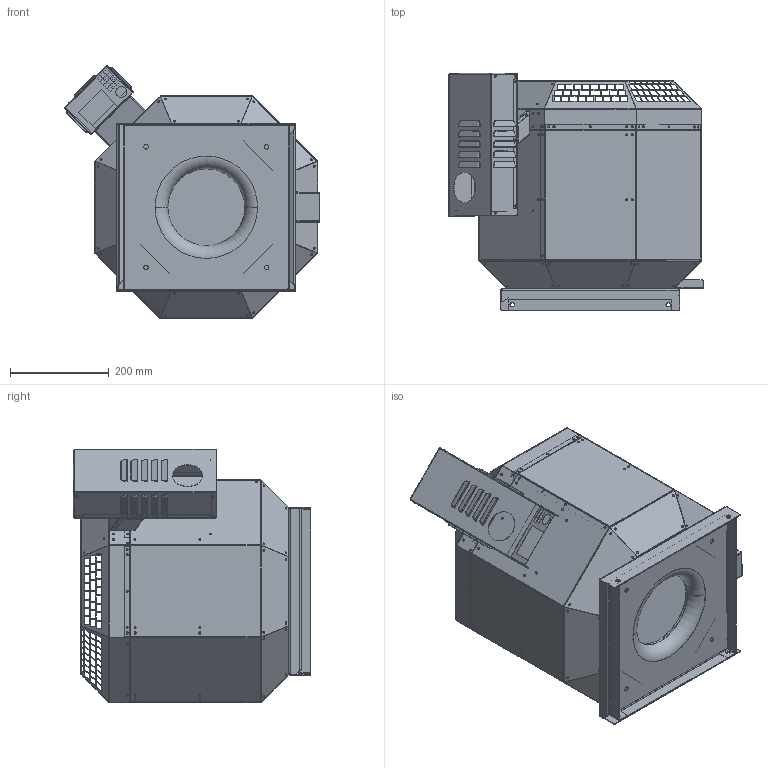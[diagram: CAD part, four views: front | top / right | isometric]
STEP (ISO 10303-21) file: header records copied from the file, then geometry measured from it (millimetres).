
FILE_DESCRIPTION (( 'STEP AP203' ), '1' );
FILE_NAME ('144839-01_DVN250EC30_step.step', '2018-07-04T10:23:51', ( '' ), ( '' ), 'SwSTEP 2.0', 'SolidWorks 2017', '' );
FILE_SCHEMA (( 'CONFIG_CONTROL_DESIGN' ));
Length unit declared in the file: millimetre
Products named in the file (1): 144839-01_DVN250EC30_step
Bounding box: 517.71 x 481.99 x 513.88 mm (x, y, z)
Surface area: 2198500.4 mm2 (no closed solid volume)
Topology: 0 solids, 31 shells, 1554 faces, 6741 edges, 4830 vertices
Faces by surface type: plane 1037, cylinder 417, bspline 96, torus 4
Entity records: 87172 total; most frequent: CARTESIAN_POINT 32710, DIRECTION 10412, ORIENTED_EDGE 9952, EDGE_CURVE 6741, VECTOR 4932, LINE 4932, VERTEX_POINT 4830, AXIS2_PLACEMENT_3D 2740
